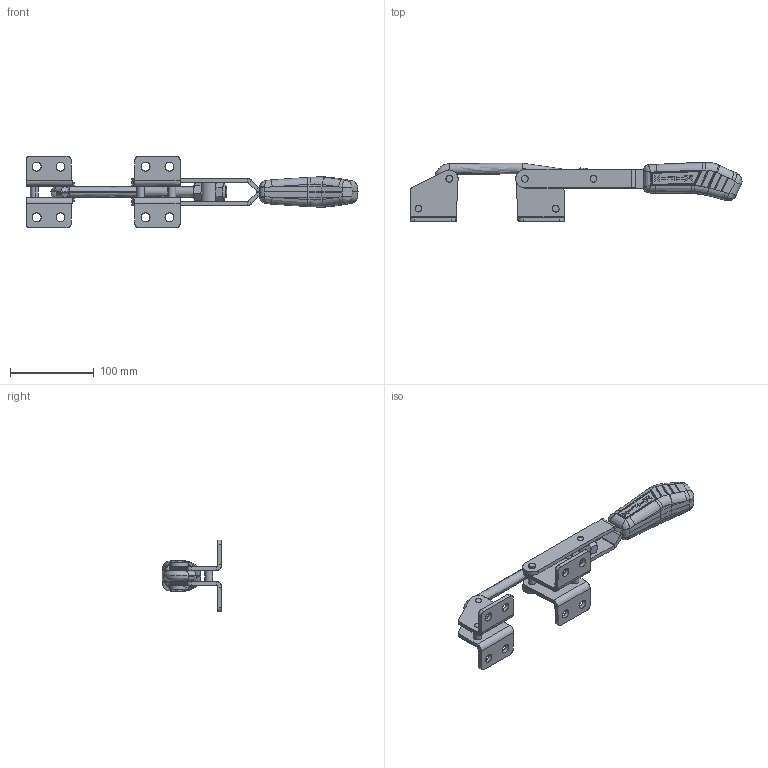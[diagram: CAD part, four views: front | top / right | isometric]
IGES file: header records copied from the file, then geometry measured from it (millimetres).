
Start section: SolidWorks IGES file using analytic representation for surfaces
Global section: file name: C:\Projetos\Grampos\KF-553\KF-553 D\KF-553 D.IGS; native system: SolidWorks 2013; preprocessor: SolidWorks 2013; author: Ricardo; date: 140821.154057; units: millimetre
Bounding box: 396.67 x 71.21 x 85.5 mm (x, y, z)
Surface area: 107373.9 mm2 (no closed solid volume)
Topology: 0 solids, 0 shells, 670 faces, 7688 edges, 7668 vertices
Faces by surface type: bspline 385, revolution 285
